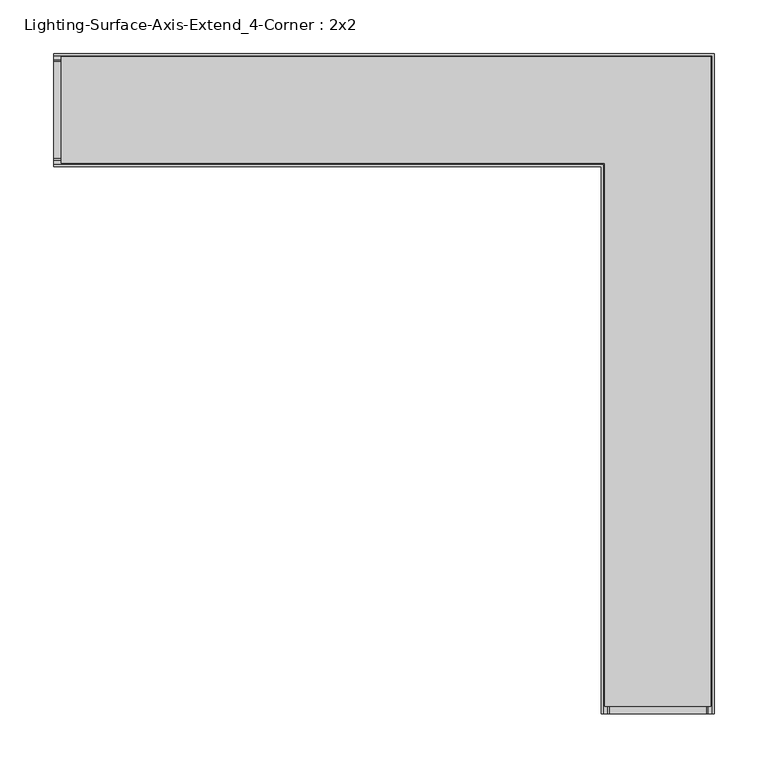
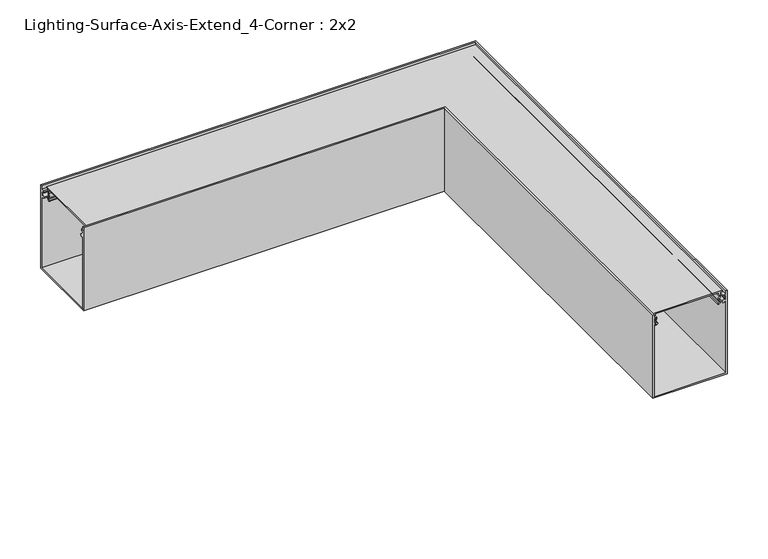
"""IFC4 building model written with IfcOpenShell, lengths in millimetres: light fixture geometry, Lighting-Surface-Axis-Extend_4-Corner : 2x2."""

from ifc_helpers import new_model, si_unit, frame, origin, place, context, project, spatial, polyline, circle_curve, ellipse_curve, source, transform, mapped, element, save
from ifc_brep_helpers import plane_surface, cylinder_surface, revolved_surface, advanced_brep


def lighting_surface_axis_extend_4_corner_2x2_baa705cf(model_context):
    return source(origin(), model_context, "Body", "AdvancedBrep", [
        advanced_brep(
        [(-556.81499, -44.9537362, 119.8879991), (-556.81499, -45.2924281, 113.4253737), (-556.81499, -46.1628914, 106.8194903), (-556.81499, -45.3476056, 105.3217575), (-556.81499, -43.9929166, 104.1223555), (-556.81499, -44.973818, 102.7943369), (-556.81499, -46.5470052, 104.1871908), (-556.81499, -47.8918907, 108.01776), (-556.81499, -46.2564041, 112.0569658), (-556.81499, -46.9204959, 113.9061789), (-556.81499, -46.607002, 119.8879991), (-556.81499, -49.61001, 119.8879991), (-556.81499, -49.61001, 121.793), (-556.81499, 49.61001, 121.793), (-556.81499, 49.61001, 119.8879991), (-556.81499, 46.607002, 119.8879991), (-556.81499, 46.9204959, 113.9061789), (-556.81499, 46.2564041, 112.0569658), (-556.81499, 47.8918907, 108.01776), (-556.81499, 46.5470052, 104.1871908), (-556.81499, 44.973818, 102.7943369), (-556.81499, 43.9929166, 104.1223555), (-556.81499, 45.3476056, 105.3217575), (-556.81499, 46.1628914, 106.8194903), (-556.81499, 45.2924281, 113.4253737), (-556.81499, 44.9537362, 119.8879991), (-44.9537362, -556.81499, 119.8879991), (44.9537362, -556.81499, 119.8879991), (45.2924281, -556.81499, 113.4253737), (46.1628914, -556.81499, 106.8194903), (45.3476056, -556.81499, 105.3217575), (43.9929166, -556.81499, 104.1223555), (44.973818, -556.81499, 102.7943369), (46.5470052, -556.81499, 104.1871908), (47.8918907, -556.81499, 108.01776), (46.2564041, -556.81499, 112.0569658), (46.9204959, -556.81499, 113.9061789), (46.607002, -556.81499, 119.8879991), (49.61001, -556.81499, 119.8879991), (49.61001, -556.81499, 121.793), (-49.61001, -556.81499, 121.793), (-49.61001, -556.81499, 119.8879991), (-46.607002, -556.81499, 119.8879991), (-46.9204959, -556.81499, 113.9061789), (-46.2564041, -556.81499, 112.0569658), (-47.8918907, -556.81499, 108.01776), (-46.5470052, -556.81499, 104.1871908), (-44.973818, -556.81499, 102.7943369), (-43.9929166, -556.81499, 104.1223555), (-45.3476056, -556.81499, 105.3217575), (-46.1628914, -556.81499, 106.8194903), (-45.2924281, -556.81499, 113.4253737), (-44.9537362, -44.9537362, 119.8879991), (-45.2924281, -45.2924281, 113.4253737), (-46.1628914, -46.1628914, 106.8194903), (-45.3476056, -45.3476056, 105.3217575), (-43.9929166, -43.9929166, 104.1223555), (-44.973818, -44.973818, 102.7943369), (-46.5470052, -46.5470052, 104.1871908), (-47.8918907, -47.8918907, 108.01776), (-46.2564041, -46.2564041, 112.0569658), (-46.9204959, -46.9204959, 113.9061789), (-46.607002, -46.607002, 119.8879991), (-49.61001, -49.61001, 119.8879991), (-49.61001, -49.61001, 121.793), (49.61001, 49.61001, 121.793), (44.9537362, 44.9537362, 119.8879991), (49.61001, 49.61001, 119.8879991), (46.607002, 46.607002, 119.8879991), (46.9204959, 46.9204959, 113.9061789), (46.2564041, 46.2564041, 112.0569658), (47.8918907, 47.8918907, 108.01776), (46.5470052, 46.5470052, 104.1871908), (44.973818, 44.973818, 102.7943369), (43.9929166, 43.9929166, 104.1223555), (45.3476056, 45.3476056, 105.3217575), (46.1628914, 46.1628914, 106.8194903), (45.2924281, 45.2924281, 113.4253737)],
        [
            (0, 1),
            (1, 2, circle_curve(frame((-556.81499, -48.03521, 110.4265), z_axis=(-1.0, 0.0, 0.0), x_axis=(0.0, 0.6748971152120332, 0.7379118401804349)), 4.064)),
            (2, 3, circle_curve(frame((-556.81499, -42.930354, 107.6083457), z_axis=(1.0, 0.0, 0.0), x_axis=(0.0, -0.9714904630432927, -0.23707863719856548)), 3.3274001)),
            (3, 4, circle_curve(frame((-556.81499, -37.9113277, 112.3560708), z_axis=(1.0, 0.0, 0.0), x_axis=(0.0, -0.7264901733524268, -0.68717685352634)), 10.2362001)),
            (4, 5, circle_curve(frame((-556.81499, -44.4833673, 103.4583462), z_axis=(-1.0, 0.0, 0.0), x_axis=(0.0, 0.5941256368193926, 0.8043722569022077)), 0.8255)),
            (5, 6, circle_curve(frame((-556.81499, -37.9113269, 112.3560717), z_axis=(-1.0, 0.0, 0.0), x_axis=(0.0, -0.594125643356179, -0.8043722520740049)), 11.8872013)),
            (6, 7, circle_curve(frame((-556.81499, -42.930354, 107.6083457), z_axis=(-1.0, 0.0, 0.0), x_axis=(0.0, -0.7264685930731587, -0.6871996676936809)), 4.9784001)),
            (7, 8, circle_curve(frame((-556.81499, -48.03521, 110.4265), z_axis=(1.0, 0.0, 0.0), x_axis=(0.0, 0.05939464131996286, -0.9982345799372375)), 2.413)),
            (8, 9, circle_curve(frame((-556.81499, -44.3839769, 113.7732456), z_axis=(-1.0, 0.0, 0.0), x_axis=(0.0, -0.7371760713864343, -0.675700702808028)), 2.54)),
            (9, 10),
            (10, 11),
            (11, 12),
            (12, 13),
            (13, 14),
            (14, 15),
            (15, 16),
            (16, 17, circle_curve(frame((-556.81499, 44.3839769, 113.7732456), z_axis=(-1.0, 0.0, 0.0), x_axis=(0.0, 0.7371760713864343, -0.675700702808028)), 2.54)),
            (17, 18, circle_curve(frame((-556.81499, 48.03521, 110.4265), z_axis=(1.0, 0.0, 0.0), x_axis=(0.0, -0.05939464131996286, -0.9982345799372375)), 2.413)),
            (18, 19, circle_curve(frame((-556.81499, 42.930354, 107.6083457), z_axis=(-1.0, 0.0, 0.0), x_axis=(0.0, 0.7264685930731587, -0.6871996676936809)), 4.9784001)),
            (19, 20, circle_curve(frame((-556.81499, 37.9113269, 112.3560717), z_axis=(-1.0, 0.0, 0.0), x_axis=(0.0, 0.594125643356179, -0.8043722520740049)), 11.8872013)),
            (20, 21, circle_curve(frame((-556.81499, 44.4833673, 103.4583462), z_axis=(-1.0, 0.0, 0.0), x_axis=(0.0, -0.5941256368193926, 0.8043722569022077)), 0.8255)),
            (21, 22, circle_curve(frame((-556.81499, 37.9113277, 112.3560708), z_axis=(1.0, 0.0, 0.0), x_axis=(0.0, 0.7264901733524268, -0.68717685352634)), 10.2362001)),
            (22, 23, circle_curve(frame((-556.81499, 42.930354, 107.6083457), z_axis=(1.0, 0.0, 0.0), x_axis=(0.0, 0.9714904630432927, -0.23707863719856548)), 3.3274001)),
            (23, 24, circle_curve(frame((-556.81499, 48.03521, 110.4265), z_axis=(-1.0, 0.0, 0.0), x_axis=(0.0, -0.6748971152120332, 0.7379118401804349)), 4.064)),
            (24, 25),
            (25, 0),
            (26, 27),
            (27, 28),
            (28, 29, circle_curve(frame((48.03521, -556.81499, 110.4265), z_axis=(0.0, -1.0, 0.0), x_axis=(-0.6748971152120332, 0.0, 0.7379118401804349)), 4.064)),
            (29, 30, circle_curve(frame((42.930354, -556.81499, 107.6083457), z_axis=(0.0, 1.0, 0.0), x_axis=(0.9714904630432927, 0.0, -0.23707863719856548)), 3.3274001)),
            (30, 31, circle_curve(frame((37.9113277, -556.81499, 112.3560708), z_axis=(0.0, 1.0, 0.0), x_axis=(0.7264901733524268, 0.0, -0.68717685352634)), 10.2362001)),
            (31, 32, circle_curve(frame((44.4833673, -556.81499, 103.4583462), z_axis=(0.0, -1.0, 0.0), x_axis=(-0.5941256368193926, 0.0, 0.8043722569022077)), 0.8255)),
            (32, 33, circle_curve(frame((37.9113269, -556.81499, 112.3560717), z_axis=(0.0, -1.0, 0.0), x_axis=(0.594125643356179, 0.0, -0.8043722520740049)), 11.8872013)),
            (33, 34, circle_curve(frame((42.930354, -556.81499, 107.6083457), z_axis=(0.0, -1.0, 0.0), x_axis=(0.7264685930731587, 0.0, -0.6871996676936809)), 4.9784001)),
            (34, 35, circle_curve(frame((48.03521, -556.81499, 110.4265), z_axis=(0.0, 1.0, 0.0), x_axis=(-0.05939464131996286, 0.0, -0.9982345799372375)), 2.413)),
            (35, 36, circle_curve(frame((44.3839769, -556.81499, 113.7732456), z_axis=(0.0, -1.0, 0.0), x_axis=(0.7371760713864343, 0.0, -0.675700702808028)), 2.54)),
            (36, 37),
            (37, 38),
            (38, 39),
            (39, 40),
            (40, 41),
            (41, 42),
            (42, 43),
            (43, 44, circle_curve(frame((-44.3839769, -556.81499, 113.7732456), z_axis=(0.0, -1.0, 0.0), x_axis=(-0.7371760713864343, 0.0, -0.675700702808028)), 2.54)),
            (44, 45, circle_curve(frame((-48.03521, -556.81499, 110.4265), z_axis=(0.0, 1.0, 0.0), x_axis=(0.05939464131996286, 0.0, -0.9982345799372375)), 2.413)),
            (45, 46, circle_curve(frame((-42.930354, -556.81499, 107.6083457), z_axis=(0.0, -1.0, 0.0), x_axis=(-0.7264685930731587, 0.0, -0.6871996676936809)), 4.9784001)),
            (46, 47, circle_curve(frame((-37.9113269, -556.81499, 112.3560717), z_axis=(0.0, -1.0, 0.0), x_axis=(-0.594125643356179, 0.0, -0.8043722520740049)), 11.8872013)),
            (47, 48, circle_curve(frame((-44.4833673, -556.81499, 103.4583462), z_axis=(0.0, -1.0, 0.0), x_axis=(0.5941256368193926, 0.0, 0.8043722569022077)), 0.8255)),
            (48, 49, circle_curve(frame((-37.9113277, -556.81499, 112.3560708), z_axis=(0.0, 1.0, 0.0), x_axis=(-0.7264901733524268, 0.0, -0.68717685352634)), 10.2362001)),
            (49, 50, circle_curve(frame((-42.930354, -556.81499, 107.6083457), z_axis=(0.0, 1.0, 0.0), x_axis=(-0.9714904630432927, 0.0, -0.23707863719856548)), 3.3274001)),
            (50, 51, circle_curve(frame((-48.03521, -556.81499, 110.4265), z_axis=(0.0, -1.0, 0.0), x_axis=(0.6748971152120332, 0.0, 0.7379118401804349)), 4.064)),
            (51, 26),
            (0, 52),
            (52, 53),
            (53, 1),
            (53, 54, ellipse_curve(frame((-48.03521, -48.03521, 110.4265), z_axis=(-0.7071067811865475, 0.7071067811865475, 0.0), x_axis=(-0.7071067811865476, -0.7071067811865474, 0.0)), 5.7473639, 4.064)),
            (54, 2),
            (54, 55, ellipse_curve(frame((-42.930354, -42.930354, 107.6083457), z_axis=(0.7071067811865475, -0.7071067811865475, 0.0), x_axis=(0.7071067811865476, 0.7071067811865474, 0.0)), 4.7056543, 3.3274001)),
            (55, 3),
            (55, 56, ellipse_curve(frame((-37.9113277, -37.9113277, 112.3560708), z_axis=(0.7071067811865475, -0.7071067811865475, 0.0), x_axis=(0.7071067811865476, 0.7071067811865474, 0.0)), 14.476173, 10.2362001)),
            (56, 4),
            (56, 57, ellipse_curve(frame((-44.4833673, -44.4833673, 103.4583462), z_axis=(-0.7071067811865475, 0.7071067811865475, 0.0), x_axis=(-0.7071067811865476, -0.7071067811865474, 0.0)), 1.1674333, 0.8255)),
            (57, 5),
            (57, 58, ellipse_curve(frame((-37.9113269, -37.9113269, 112.3560717), z_axis=(-0.7071067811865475, 0.7071067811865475, 0.0), x_axis=(-0.7071067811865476, -0.7071067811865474, 0.0)), 16.8110412, 11.8872013)),
            (58, 6),
            (58, 59, ellipse_curve(frame((-42.930354, -42.930354, 107.6083457), z_axis=(-0.7071067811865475, 0.7071067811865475, 0.0), x_axis=(-0.7071067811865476, -0.7071067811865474, 0.0)), 7.0405209, 4.9784001)),
            (59, 7),
            (59, 60, ellipse_curve(frame((-48.03521, -48.03521, 110.4265), z_axis=(0.7071067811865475, -0.7071067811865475, 0.0), x_axis=(0.7071067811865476, 0.7071067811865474, 0.0)), 3.4124973, 2.413)),
            (60, 8),
            (60, 61, ellipse_curve(frame((-44.3839769, -44.3839769, 113.7732456), z_axis=(-0.7071067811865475, 0.7071067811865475, 0.0), x_axis=(-0.7071067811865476, -0.7071067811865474, 0.0)), 3.5921024, 2.54)),
            (61, 9),
            (61, 62),
            (62, 10),
            (62, 42),
            (41, 63),
            (63, 11),
            (63, 64),
            (64, 12),
            (64, 40),
            (39, 65),
            (65, 13),
            (25, 66),
            (66, 27),
            (26, 52),
            (65, 67),
            (67, 14),
            (67, 38),
            (37, 68),
            (68, 15),
            (68, 69),
            (69, 16),
            (69, 70, ellipse_curve(frame((44.3839769, 44.3839769, 113.7732456), z_axis=(-0.7071067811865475, 0.7071067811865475, 0.0), x_axis=(-0.7071067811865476, -0.7071067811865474, 0.0)), 3.5921024, 2.54)),
            (70, 17),
            (70, 71, ellipse_curve(frame((48.03521, 48.03521, 110.4265), z_axis=(0.7071067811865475, -0.7071067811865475, 0.0), x_axis=(0.7071067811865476, 0.7071067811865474, 0.0)), 3.4124973, 2.413)),
            (71, 18),
            (71, 72, ellipse_curve(frame((42.930354, 42.930354, 107.6083457), z_axis=(-0.7071067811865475, 0.7071067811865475, 0.0), x_axis=(-0.7071067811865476, -0.7071067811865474, 0.0)), 7.0405209, 4.9784001)),
            (72, 19),
            (72, 73, ellipse_curve(frame((37.9113269, 37.9113269, 112.3560717), z_axis=(-0.7071067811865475, 0.7071067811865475, 0.0), x_axis=(-0.7071067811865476, -0.7071067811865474, 0.0)), 16.8110412, 11.8872013)),
            (73, 20),
            (73, 74, ellipse_curve(frame((44.4833673, 44.4833673, 103.4583462), z_axis=(-0.7071067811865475, 0.7071067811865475, 0.0), x_axis=(-0.7071067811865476, -0.7071067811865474, 0.0)), 1.1674333, 0.8255)),
            (74, 21),
            (74, 75, ellipse_curve(frame((37.9113277, 37.9113277, 112.3560708), z_axis=(0.7071067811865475, -0.7071067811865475, 0.0), x_axis=(0.7071067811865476, 0.7071067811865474, 0.0)), 14.476173, 10.2362001)),
            (75, 22),
            (75, 76, ellipse_curve(frame((42.930354, 42.930354, 107.6083457), z_axis=(0.7071067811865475, -0.7071067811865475, 0.0), x_axis=(0.7071067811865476, 0.7071067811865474, 0.0)), 4.7056543, 3.3274001)),
            (76, 23),
            (76, 77, ellipse_curve(frame((48.03521, 48.03521, 110.4265), z_axis=(-0.7071067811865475, 0.7071067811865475, 0.0), x_axis=(-0.7071067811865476, -0.7071067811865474, 0.0)), 5.7473639, 4.064)),
            (77, 24),
            (77, 66),
            (51, 53),
            (50, 54),
            (49, 55),
            (48, 56),
            (47, 57),
            (46, 58),
            (45, 59),
            (44, 60),
            (43, 61),
            (36, 69),
            (35, 70),
            (34, 71),
            (33, 72),
            (32, 73),
            (31, 74),
            (30, 75),
            (29, 76),
            (28, 77),
        ],
        [
            plane_surface(frame((-556.81499, 0.0, 0.0), z_axis=(-1.0, 0.0, 0.0), x_axis=(0.0, 0.0, 1.0))),
            plane_surface(frame((0.0, -556.81499, 0.0), z_axis=(0.0, -1.0, 0.0), x_axis=(0.0, 0.0, 1.0))),
            plane_surface(frame((-556.81499, -44.9537362, 119.8879991), z_axis=(0.0, 0.9986295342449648, -0.05233596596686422), x_axis=(1.0, 0.0, 0.0))),
            cylinder_surface(frame((-556.81499, -48.03521, 110.4265), z_axis=(-1.0, 0.0, 0.0), x_axis=(0.0, 0.6748971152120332, 0.7379118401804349)), 4.064),
            revolved_surface(polyline([(-39.6029539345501, -46.1628914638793, 106.81949021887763), (-556.81499, -46.1628914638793, 106.81949021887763)]), (-556.81499, -42.930354, 107.6083457), (1.0000000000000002, 0.0, 0.0)),
            revolved_surface(polyline([(-27.67512760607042, -45.34782648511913, 105.32199102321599), (-556.81499, -45.34782648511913, 105.32199102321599)]), (-556.81499, -37.9113277, 112.3560708), (1.0, 0.0, 0.0)),
            cylinder_surface(frame((-556.81499, -44.4833673, 103.4583462), z_axis=(-1.0, 0.0, 0.0), x_axis=(0.0, 0.5941256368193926, 0.8043722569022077)), 0.8255),
            cylinder_surface(frame((-556.81499, -37.9113269, 112.3560717), z_axis=(-1.0, 0.0, 0.0), x_axis=(0.0, -0.594125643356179, -0.8043722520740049)), 11.8872013),
            cylinder_surface(frame((-556.81499, -42.930354, 107.6083457), z_axis=(-1.0, 0.0, 0.0), x_axis=(0.0, -0.7264685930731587, -0.6871996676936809)), 4.9784001),
            revolved_surface(polyline([(-45.62221001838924, -47.89189073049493, 108.01775995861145), (-556.81499, -47.89189073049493, 108.01775995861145)]), (-556.81499, -48.03521, 110.4265), (1.0, 0.0, 0.0)),
            cylinder_surface(frame((-556.81499, -44.3839769, 113.7732456), z_axis=(-1.0, 0.0, 0.0), x_axis=(0.0, -0.7371760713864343, -0.675700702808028)), 2.54),
            plane_surface(frame((-556.81499, -46.9204959, 113.9061789), z_axis=(0.0, -0.9986295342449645, 0.05233596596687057), x_axis=(1.0, 0.0, 0.0))),
            plane_surface(frame((-556.81499, -46.607002, 119.8879991), z_axis=(0.0, 0.0, -1.0), x_axis=(1.0, 0.0, 0.0))),
            plane_surface(frame((-556.81499, -49.61001, 119.8879991), z_axis=(0.0, -1.0, 0.0), x_axis=(1.0, 0.0, 0.0))),
            plane_surface(frame((-556.81499, -49.61001, 121.793), z_axis=(0.0, 0.0, 1.0), x_axis=(1.0, 0.0, 0.0))),
            plane_surface(frame((-556.81499, 44.9537362, 119.8879991), z_axis=(0.0, 0.0, -1.0), x_axis=(1.0, 0.0, 0.0))),
            plane_surface(frame((-556.81499, 49.61001, 121.793), z_axis=(0.0, 1.0, 0.0), x_axis=(1.0, 0.0, 0.0))),
            plane_surface(frame((-556.81499, 49.61001, 119.8879991), z_axis=(0.0, 0.0, -1.0), x_axis=(1.0, 0.0, 0.0))),
            plane_surface(frame((-556.81499, 46.607002, 119.8879991), z_axis=(0.0, 0.9986295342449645, 0.05233596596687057), x_axis=(1.0, 0.0, 0.0))),
            cylinder_surface(frame((-556.81499, 44.3839769, 113.7732456), z_axis=(-1.0, 0.0, 0.0), x_axis=(0.0, 0.7371760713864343, -0.675700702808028)), 2.54),
            revolved_surface(polyline([(50.44820998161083, 47.89189073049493, 108.01775995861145), (-556.81499, 47.89189073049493, 108.01775995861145)]), (-556.81499, 48.03521, 110.4265), (1.0, 0.0, 0.0)),
            cylinder_surface(frame((-556.81499, 42.930354, 107.6083457), z_axis=(-1.0, 0.0, 0.0), x_axis=(0.0, 0.7264685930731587, -0.6871996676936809)), 4.9784001),
            cylinder_surface(frame((-556.81499, 37.9113269, 112.3560717), z_axis=(-1.0, 0.0, 0.0), x_axis=(0.0, 0.594125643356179, -0.8043722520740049)), 11.8872013),
            cylinder_surface(frame((-556.81499, 44.4833673, 103.4583462), z_axis=(-1.0, 0.0, 0.0), x_axis=(0.0, -0.5941256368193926, 0.8043722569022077)), 0.8255),
            revolved_surface(polyline([(48.14752779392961, 45.34782648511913, 105.32199102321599), (-556.81499, 45.34782648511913, 105.32199102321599)]), (-556.81499, 37.9113277, 112.3560708), (1.0, 0.0, 0.0)),
            revolved_surface(polyline([(46.25775406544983, 46.1628914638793, 106.81949021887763), (-556.81499, 46.1628914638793, 106.81949021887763)]), (-556.81499, 42.930354, 107.6083457), (1.0000000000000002, 0.0, 0.0)),
            cylinder_surface(frame((-556.81499, 48.03521, 110.4265), z_axis=(-1.0, 0.0, 0.0), x_axis=(0.0, -0.6748971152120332, 0.7379118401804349)), 4.064),
            plane_surface(frame((-556.81499, 45.2924281, 113.4253737), z_axis=(0.0, -0.9986295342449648, -0.05233596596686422), x_axis=(1.0, 0.0, 0.0))),
            plane_surface(frame((-44.9537362, -44.9537362, 119.8879991), z_axis=(0.9986295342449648, 0.0, -0.05233596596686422), x_axis=(0.0, -1.0, 0.0))),
            cylinder_surface(frame((-48.03521, 0.0, 110.4265), z_axis=(0.0, 1.0, 0.0), x_axis=(0.6748971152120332, 0.0, 0.7379118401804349)), 4.064),
            revolved_surface(polyline([(-46.1628914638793, -556.8149900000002, 106.81949021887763), (-46.1628914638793, -39.60295393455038, 106.81949021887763)]), (-42.930354, 0.0, 107.6083457), (0.0, -1.0000000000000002, 0.0)),
            revolved_surface(polyline([(-45.34782648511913, -556.81499, 105.32199102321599), (-45.34782648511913, -27.675127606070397, 105.32199102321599)]), (-37.9113277, 0.0, 112.3560708), (0.0, -1.0, 0.0)),
            cylinder_surface(frame((-44.4833673, 0.0, 103.4583462), z_axis=(0.0, 1.0, 0.0), x_axis=(0.5941256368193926, 0.0, 0.8043722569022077)), 0.8255),
            cylinder_surface(frame((-37.9113269, 0.0, 112.3560717), z_axis=(0.0, 1.0, 0.0), x_axis=(-0.594125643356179, 0.0, -0.8043722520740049)), 11.8872013),
            cylinder_surface(frame((-42.930354, 0.0, 107.6083457), z_axis=(0.0, 1.0, 0.0), x_axis=(-0.7264685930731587, 0.0, -0.6871996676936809)), 4.9784001),
            revolved_surface(polyline([(-47.89189073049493, -556.81499, 108.01775995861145), (-47.89189073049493, -45.62221001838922, 108.01775995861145)]), (-48.03521, 0.0, 110.4265), (0.0, -1.0, 0.0)),
            cylinder_surface(frame((-44.3839769, 0.0, 113.7732456), z_axis=(0.0, 1.0, 0.0), x_axis=(-0.7371760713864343, 0.0, -0.675700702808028)), 2.54),
            plane_surface(frame((-46.9204959, -46.9204959, 113.9061789), z_axis=(-0.9986295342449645, 0.0, 0.05233596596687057), x_axis=(0.0, -1.0, 0.0))),
            plane_surface(frame((-49.61001, -49.61001, 119.8879991), z_axis=(-1.0, 0.0, 0.0), x_axis=(0.0, -1.0, 0.0))),
            plane_surface(frame((49.61001, 49.61001, 121.793), z_axis=(1.0, 0.0, 0.0), x_axis=(0.0, -1.0, 0.0))),
            plane_surface(frame((46.607002, 46.607002, 119.8879991), z_axis=(0.9986295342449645, 0.0, 0.05233596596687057), x_axis=(0.0, -1.0, 0.0))),
            cylinder_surface(frame((44.3839769, 0.0, 113.7732456), z_axis=(0.0, 1.0, 0.0), x_axis=(0.7371760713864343, 0.0, -0.675700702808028)), 2.54),
            revolved_surface(polyline([(47.89189073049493, -556.81499, 108.01775995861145), (47.89189073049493, 50.44820998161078, 108.01775995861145)]), (48.03521, 0.0, 110.4265), (0.0, -1.0, 0.0)),
            cylinder_surface(frame((42.930354, 0.0, 107.6083457), z_axis=(0.0, 1.0, 0.0), x_axis=(0.7264685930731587, 0.0, -0.6871996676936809)), 4.9784001),
            cylinder_surface(frame((37.9113269, 0.0, 112.3560717), z_axis=(0.0, 1.0, 0.0), x_axis=(0.594125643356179, 0.0, -0.8043722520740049)), 11.8872013),
            cylinder_surface(frame((44.4833673, 0.0, 103.4583462), z_axis=(0.0, 1.0, 0.0), x_axis=(-0.5941256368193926, 0.0, 0.8043722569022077)), 0.8255),
            revolved_surface(polyline([(45.34782648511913, -556.81499, 105.32199102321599), (45.34782648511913, 48.147527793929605, 105.32199102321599)]), (37.9113277, 0.0, 112.3560708), (0.0, -1.0, 0.0)),
            revolved_surface(polyline([(46.1628914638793, -556.8149900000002, 106.81949021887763), (46.1628914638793, 46.25775406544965, 106.81949021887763)]), (42.930354, 0.0, 107.6083457), (0.0, -1.0000000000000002, 0.0)),
            cylinder_surface(frame((48.03521, 0.0, 110.4265), z_axis=(0.0, 1.0, 0.0), x_axis=(-0.6748971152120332, 0.0, 0.7379118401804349)), 4.064),
            plane_surface(frame((45.2924281, 45.2924281, 113.4253737), z_axis=(-0.9986295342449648, 0.0, -0.05233596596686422), x_axis=(0.0, -1.0, 0.0))),
        ],
        [
            (0, [[1, 2, 3, 4, 5, 6, 7, 8, 9, 10, 11, 12, 13, 14, 15, 16, 17, 18, 19, 20, 21, 22, 23, 24, 25, 26]]),
            (1, [[27, 28, 29, 30, 31, 32, 33, 34, 35, 36, 37, 38, 39, 40, 41, 42, 43, 44, 45, 46, 47, 48, 49, 50, 51, 52]]),
            (2, [[-1, 53, 54, 55]]),
            (3, [[-2, -55, 56, 57]]),
            (4, [[-3, -57, 58, 59]]),
            (5, [[-4, -59, 60, 61]]),
            (6, [[-5, -61, 62, 63]]),
            (7, [[-6, -63, 64, 65]]),
            (8, [[-7, -65, 66, 67]]),
            (9, [[-8, -67, 68, 69]]),
            (10, [[-9, -69, 70, 71]]),
            (11, [[-10, -71, 72, 73]]),
            (12, [[-11, -73, 74, -42, 75, 76]]),
            (13, [[-12, -76, 77, 78]]),
            (14, [[-13, -78, 79, -40, 80, 81]]),
            (15, [[-26, 82, 83, -27, 84, -53]]),
            (16, [[-14, -81, 85, 86]]),
            (17, [[-15, -86, 87, -38, 88, 89]]),
            (18, [[-16, -89, 90, 91]]),
            (19, [[-17, -91, 92, 93]]),
            (20, [[-18, -93, 94, 95]]),
            (21, [[-19, -95, 96, 97]]),
            (22, [[-20, -97, 98, 99]]),
            (23, [[-21, -99, 100, 101]]),
            (24, [[-22, -101, 102, 103]]),
            (25, [[-23, -103, 104, 105]]),
            (26, [[-24, -105, 106, 107]]),
            (27, [[-25, -107, 108, -82]]),
            (28, [[-54, -84, -52, 109]]),
            (29, [[-56, -109, -51, 110]]),
            (30, [[-58, -110, -50, 111]]),
            (31, [[-60, -111, -49, 112]]),
            (32, [[-62, -112, -48, 113]]),
            (33, [[-64, -113, -47, 114]]),
            (34, [[-66, -114, -46, 115]]),
            (35, [[-68, -115, -45, 116]]),
            (36, [[-70, -116, -44, 117]]),
            (37, [[-72, -117, -43, -74]]),
            (38, [[-77, -75, -41, -79]]),
            (39, [[-85, -80, -39, -87]]),
            (40, [[-90, -88, -37, 118]]),
            (41, [[-92, -118, -36, 119]]),
            (42, [[-94, -119, -35, 120]]),
            (43, [[-96, -120, -34, 121]]),
            (44, [[-98, -121, -33, 122]]),
            (45, [[-100, -122, -32, 123]]),
            (46, [[-102, -123, -31, 124]]),
            (47, [[-104, -124, -30, 125]]),
            (48, [[-106, -125, -29, 126]]),
            (49, [[-108, -126, -28, -83]]),
        ],
    ),
        advanced_brep(
        [(-563.76189, -50.75301, 109.8677), (-563.76189, -50.75301, 2.032), (-563.76189, 50.75301, 2.032), (-563.76189, 50.75301, 109.8677), (-563.76189, 48.9135897, 109.8677), (-563.76189, 46.6540646, 108.5631626), (-563.76189, 45.4706616, 110.8183682), (-563.76189, 48.84801, 113.6523), (-563.76189, 48.84801, 111.8997), (-563.76189, 50.75301, 111.8997), (-563.76189, 50.75301, 118.4275), (-563.76189, 48.84801, 118.4275), (-563.76189, 48.84801, 116.9035), (-563.76189, 47.19701, 116.9900252), (-563.76189, 47.19701, 119.6975), (-563.76189, 50.75301, 119.6975), (-563.76189, 50.75301, 124.7775), (-563.76189, 52.78501, 124.7775), (-563.76189, 52.78501, 0.0), (-563.76189, -52.78501, 0.0), (-563.76189, -52.78501, 124.7775), (-563.76189, -50.75301, 124.7775), (-563.76189, -50.75301, 119.6975), (-563.76189, -47.19701, 119.6975), (-563.76189, -47.19701, 116.9900252), (-563.76189, -48.84801, 116.9035), (-563.76189, -48.84801, 118.4275), (-563.76189, -50.75301, 118.4275), (-563.76189, -50.75301, 111.8997), (-563.76189, -48.84801, 111.8997), (-563.76189, -48.84801, 113.6523), (-563.76189, -45.4706616, 110.8183682), (-563.76189, -46.6540646, 108.5631626), (-563.76189, -48.9135897, 109.8677), (-50.75301, -563.76189, 109.8677), (-48.9135897, -563.76189, 109.8677), (-46.6540646, -563.76189, 108.5631626), (-45.4706616, -563.76189, 110.8183682), (-48.84801, -563.76189, 113.6523), (-48.84801, -563.76189, 111.8997), (-50.75301, -563.76189, 111.8997), (-50.75301, -563.76189, 118.4275), (-48.84801, -563.76189, 118.4275), (-48.84801, -563.76189, 116.9035), (-47.19701, -563.76189, 116.9900252), (-47.19701, -563.76189, 119.6975), (-50.75301, -563.76189, 119.6975), (-50.75301, -563.76189, 124.7775), (-52.78501, -563.76189, 124.7775), (-52.78501, -563.76189, 0.0), (52.78501, -563.76189, 0.0), (52.78501, -563.76189, 124.7775), (50.75301, -563.76189, 124.7775), (50.75301, -563.76189, 119.6975), (47.19701, -563.76189, 119.6975), (47.19701, -563.76189, 116.9900252), (48.84801, -563.76189, 116.9035), (48.84801, -563.76189, 118.4275), (50.75301, -563.76189, 118.4275), (50.75301, -563.76189, 111.8997), (48.84801, -563.76189, 111.8997), (48.84801, -563.76189, 113.6523), (45.4706616, -563.76189, 110.8183682), (46.6540646, -563.76189, 108.5631626), (48.9135897, -563.76189, 109.8677), (50.75301, -563.76189, 109.8677), (50.75301, -563.76189, 2.032), (-50.75301, -563.76189, 2.032), (-50.75301, -50.75301, 109.8677), (-50.75301, -50.75301, 2.032), (50.75301, 50.75301, 2.032), (52.78501, 52.78501, 0.0), (-52.78501, -52.78501, 0.0), (-52.78501, -52.78501, 124.7775), (-50.75301, -50.75301, 124.7775), (-50.75301, -50.75301, 119.6975), (-47.19701, -47.19701, 119.6975), (-47.19701, -47.19701, 116.9900252), (-48.84801, -48.84801, 116.9035), (-48.84801, -48.84801, 118.4275), (-50.75301, -50.75301, 118.4275), (-50.75301, -50.75301, 111.8997), (-48.84801, -48.84801, 111.8997), (-48.84801, -48.84801, 113.6523), (-45.4706616, -45.4706616, 110.8183682), (-46.6540646, -46.6540646, 108.5631626), (-48.9135897, -48.9135897, 109.8677), (50.75301, 50.75301, 109.8677), (48.9135897, 48.9135897, 109.8677), (46.6540646, 46.6540646, 108.5631626), (45.4706616, 45.4706616, 110.8183682), (48.84801, 48.84801, 113.6523), (48.84801, 48.84801, 111.8997), (50.75301, 50.75301, 111.8997), (50.75301, 50.75301, 118.4275), (48.84801, 48.84801, 118.4275), (48.84801, 48.84801, 116.9035), (47.19701, 47.19701, 116.9900252), (47.19701, 47.19701, 119.6975), (50.75301, 50.75301, 119.6975), (50.75301, 50.75301, 124.7775), (52.78501, 52.78501, 124.7775)],
        [
            (0, 1),
            (1, 2),
            (2, 3),
            (3, 4),
            (4, 5, circle_curve(frame((-563.76189, 47.4072397, 109.8677), z_axis=(-1.0, 0.0, 0.0), x_axis=(0.0, 1.0, 0.0)), 1.5063501)),
            (5, 6, circle_curve(frame((-563.76189, 47.8452221, 110.6263079), z_axis=(-1.0, 0.0, 0.0), x_axis=(0.0, -0.5000000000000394, -0.866025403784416)), 2.382315)),
            (6, 7),
            (7, 8),
            (8, 9),
            (9, 10),
            (10, 11),
            (11, 12),
            (12, 13),
            (13, 14),
            (14, 15),
            (15, 16),
            (16, 17),
            (17, 18),
            (18, 19),
            (19, 20),
            (20, 21),
            (21, 22),
            (22, 23),
            (23, 24),
            (24, 25),
            (25, 26),
            (26, 27),
            (27, 28),
            (28, 29),
            (29, 30),
            (30, 31),
            (31, 32, circle_curve(frame((-563.76189, -47.8452221, 110.6263079), z_axis=(-1.0, 0.0, 0.0), x_axis=(0.0, 0.5000000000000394, -0.866025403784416)), 2.382315)),
            (32, 33, circle_curve(frame((-563.76189, -47.4072397, 109.8677), z_axis=(-1.0, 0.0, 0.0), x_axis=(0.0, -1.0, 0.0)), 1.5063501)),
            (33, 0),
            (34, 35),
            (35, 36, circle_curve(frame((-47.4072397, -563.76189, 109.8677), z_axis=(0.0, -1.0, 0.0), x_axis=(-1.0, 0.0, 0.0)), 1.5063501)),
            (36, 37, circle_curve(frame((-47.8452221, -563.76189, 110.6263079), z_axis=(0.0, -1.0, 0.0), x_axis=(0.5000000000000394, 0.0, -0.866025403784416)), 2.382315)),
            (37, 38),
            (38, 39),
            (39, 40),
            (40, 41),
            (41, 42),
            (42, 43),
            (43, 44),
            (44, 45),
            (45, 46),
            (46, 47),
            (47, 48),
            (48, 49),
            (49, 50),
            (50, 51),
            (51, 52),
            (52, 53),
            (53, 54),
            (54, 55),
            (55, 56),
            (56, 57),
            (57, 58),
            (58, 59),
            (59, 60),
            (60, 61),
            (61, 62),
            (62, 63, circle_curve(frame((47.8452221, -563.76189, 110.6263079), z_axis=(0.0, -1.0, 0.0), x_axis=(-0.5000000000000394, 0.0, -0.866025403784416)), 2.382315)),
            (63, 64, circle_curve(frame((47.4072397, -563.76189, 109.8677), z_axis=(0.0, -1.0, 0.0), x_axis=(1.0, 0.0, 0.0)), 1.5063501)),
            (64, 65),
            (65, 66),
            (66, 67),
            (67, 34),
            (0, 68),
            (68, 69),
            (69, 1),
            (69, 67),
            (66, 70),
            (70, 2),
            (18, 71),
            (71, 50),
            (49, 72),
            (72, 19),
            (72, 73),
            (73, 20),
            (73, 48),
            (47, 74),
            (74, 21),
            (74, 75),
            (75, 22),
            (75, 46),
            (45, 76),
            (76, 23),
            (76, 77),
            (77, 24),
            (77, 78),
            (78, 25),
            (78, 79),
            (79, 26),
            (79, 42),
            (41, 80),
            (80, 27),
            (80, 81),
            (81, 28),
            (81, 40),
            (39, 82),
            (82, 29),
            (82, 83),
            (83, 30),
            (83, 84),
            (84, 31),
            (84, 85, ellipse_curve(frame((-47.8452221, -47.8452221, 110.6263079), z_axis=(-0.7071067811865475, 0.7071067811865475, 0.0), x_axis=(-0.7071067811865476, -0.7071067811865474, 0.0)), 3.3691022, 2.382315)),
            (85, 32),
            (85, 86, ellipse_curve(frame((-47.4072397, -47.4072397, 109.8677), z_axis=(-0.7071067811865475, 0.7071067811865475, 0.0), x_axis=(-0.7071067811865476, -0.7071067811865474, 0.0)), 2.1303007, 1.5063501)),
            (86, 33),
            (86, 35),
            (34, 68),
            (70, 87),
            (87, 3),
            (87, 65),
            (64, 88),
            (88, 4),
            (88, 89, ellipse_curve(frame((47.4072397, 47.4072397, 109.8677), z_axis=(-0.7071067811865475, 0.7071067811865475, 0.0), x_axis=(-0.7071067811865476, -0.7071067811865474, 0.0)), 2.1303007, 1.5063501)),
            (89, 5),
            (89, 90, ellipse_curve(frame((47.8452221, 47.8452221, 110.6263079), z_axis=(-0.7071067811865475, 0.7071067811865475, 0.0), x_axis=(-0.7071067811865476, -0.7071067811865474, 0.0)), 3.3691022, 2.382315)),
            (90, 6),
            (90, 91),
            (91, 7),
            (91, 92),
            (92, 8),
            (92, 60),
            (59, 93),
            (93, 9),
            (93, 94),
            (94, 10),
            (94, 58),
            (57, 95),
            (95, 11),
            (95, 96),
            (96, 12),
            (96, 97),
            (97, 13),
            (97, 98),
            (98, 14),
            (98, 54),
            (53, 99),
            (99, 15),
            (99, 100),
            (100, 16),
            (100, 52),
            (51, 101),
            (101, 17),
            (101, 71),
            (63, 89),
            (62, 90),
            (61, 91),
            (56, 96),
            (55, 97),
            (44, 77),
            (43, 78),
            (38, 83),
            (37, 84),
            (36, 85),
        ],
        [
            plane_surface(frame((-563.76189, 0.0, 0.0), z_axis=(-1.0, 0.0, 0.0), x_axis=(0.0, 0.0, 1.0))),
            plane_surface(frame((0.0, -563.76189, 0.0), z_axis=(0.0, -1.0, 0.0), x_axis=(0.0, 0.0, 1.0))),
            plane_surface(frame((-563.76189, -50.75301, 109.8677), z_axis=(0.0, 1.0, 0.0), x_axis=(1.0, 0.0, 0.0))),
            plane_surface(frame((-563.76189, -50.75301, 2.032), z_axis=(0.0, 0.0, 1.0), x_axis=(1.0, 0.0, 0.0))),
            plane_surface(frame((-563.76189, 52.78501, 0.0), z_axis=(0.0, 0.0, -1.0), x_axis=(1.0, 0.0, 0.0))),
            plane_surface(frame((-563.76189, -52.78501, 0.0), z_axis=(0.0, -1.0, 0.0), x_axis=(1.0, 0.0, 0.0))),
            plane_surface(frame((-563.76189, -52.78501, 124.7775), z_axis=(0.0, 0.0, 1.0), x_axis=(1.0, 0.0, 0.0))),
            plane_surface(frame((-563.76189, -50.75301, 124.7775), z_axis=(0.0, 1.0, 0.0), x_axis=(1.0, 0.0, 0.0))),
            plane_surface(frame((-563.76189, -50.75301, 119.6975), z_axis=(0.0, 0.0, 1.0), x_axis=(1.0, 0.0, 0.0))),
            plane_surface(frame((-563.76189, -47.19701, 119.6975), z_axis=(0.0, 1.0, 0.0), x_axis=(1.0, 0.0, 0.0))),
            plane_surface(frame((-563.76189, -47.19701, 116.9900252), z_axis=(0.0, 0.052335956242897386, -0.9986295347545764), x_axis=(1.0, 0.0, 0.0))),
            plane_surface(frame((-563.76189, -48.84801, 116.9035), z_axis=(0.0, -1.0, 0.0), x_axis=(1.0, 0.0, 0.0))),
            plane_surface(frame((-563.76189, -48.84801, 118.4275), z_axis=(0.0, 0.0, -1.0), x_axis=(1.0, 0.0, 0.0))),
            plane_surface(frame((-563.76189, -50.75301, 118.4275), z_axis=(0.0, 1.0, 0.0), x_axis=(1.0, 0.0, 0.0))),
            plane_surface(frame((-563.76189, -50.75301, 111.8997), z_axis=(0.0, 0.0, 1.0), x_axis=(1.0, 0.0, 0.0))),
            plane_surface(frame((-563.76189, -48.84801, 111.8997), z_axis=(0.0, -1.0, 0.0), x_axis=(1.0, 0.0, 0.0))),
            plane_surface(frame((-563.76189, -48.84801, 113.6523), z_axis=(0.0, 0.6427876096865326, 0.7660444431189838), x_axis=(1.0, 0.0, 0.0))),
            cylinder_surface(frame((-563.76189, -47.8452221, 110.6263079), z_axis=(-1.0, 0.0, 0.0), x_axis=(0.0, 0.5000000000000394, -0.866025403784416)), 2.382315),
            cylinder_surface(frame((-563.76189, -47.4072397, 109.8677), z_axis=(-1.0, 0.0, 0.0), x_axis=(0.0, -1.0, 0.0)), 1.5063501),
            plane_surface(frame((-563.76189, -48.9135897, 109.8677), z_axis=(0.0, 0.0, -1.0), x_axis=(1.0, 0.0, 0.0))),
            plane_surface(frame((-563.76189, 50.75301, 2.032), z_axis=(0.0, -1.0, 0.0), x_axis=(1.0, 0.0, 0.0))),
            plane_surface(frame((-563.76189, 50.75301, 109.8677), z_axis=(0.0, 0.0, -1.0), x_axis=(1.0, 0.0, 0.0))),
            cylinder_surface(frame((-563.76189, 47.4072397, 109.8677), z_axis=(-1.0, 0.0, 0.0), x_axis=(0.0, 1.0, 0.0)), 1.5063501),
            cylinder_surface(frame((-563.76189, 47.8452221, 110.6263079), z_axis=(-1.0, 0.0, 0.0), x_axis=(0.0, -0.5000000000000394, -0.866025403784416)), 2.382315),
            plane_surface(frame((-563.76189, 45.4706616, 110.8183682), z_axis=(0.0, -0.6427876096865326, 0.7660444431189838), x_axis=(1.0, 0.0, 0.0))),
            plane_surface(frame((-563.76189, 48.84801, 113.6523), z_axis=(0.0, 1.0, 0.0), x_axis=(1.0, 0.0, 0.0))),
            plane_surface(frame((-563.76189, 48.84801, 111.8997), z_axis=(0.0, 0.0, 1.0), x_axis=(1.0, 0.0, 0.0))),
            plane_surface(frame((-563.76189, 50.75301, 111.8997), z_axis=(0.0, -1.0, 0.0), x_axis=(1.0, 0.0, 0.0))),
            plane_surface(frame((-563.76189, 50.75301, 118.4275), z_axis=(0.0, 0.0, -1.0), x_axis=(1.0, 0.0, 0.0))),
            plane_surface(frame((-563.76189, 48.84801, 118.4275), z_axis=(0.0, 1.0, 0.0), x_axis=(1.0, 0.0, 0.0))),
            plane_surface(frame((-563.76189, 48.84801, 116.9035), z_axis=(0.0, -0.052335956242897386, -0.9986295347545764), x_axis=(1.0, 0.0, 0.0))),
            plane_surface(frame((-563.76189, 47.19701, 116.9900252), z_axis=(0.0, -1.0, 0.0), x_axis=(1.0, 0.0, 0.0))),
            plane_surface(frame((-563.76189, 47.19701, 119.6975), z_axis=(0.0, 0.0, 1.0), x_axis=(1.0, 0.0, 0.0))),
            plane_surface(frame((-563.76189, 50.75301, 119.6975), z_axis=(0.0, -1.0, 0.0), x_axis=(1.0, 0.0, 0.0))),
            plane_surface(frame((-563.76189, 50.75301, 124.7775), z_axis=(0.0, 0.0, 1.0), x_axis=(1.0, 0.0, 0.0))),
            plane_surface(frame((-563.76189, 52.78501, 124.7775), z_axis=(0.0, 1.0, 0.0), x_axis=(1.0, 0.0, 0.0))),
            plane_surface(frame((-50.75301, -50.75301, 109.8677), z_axis=(1.0, 0.0, 0.0), x_axis=(0.0, -1.0, 0.0))),
            plane_surface(frame((50.75301, 50.75301, 2.032), z_axis=(-1.0, 0.0, 0.0), x_axis=(0.0, -1.0, 0.0))),
            cylinder_surface(frame((47.4072397, 0.0, 109.8677), z_axis=(0.0, 1.0, 0.0), x_axis=(1.0, 0.0, 0.0)), 1.5063501),
            cylinder_surface(frame((47.8452221, 0.0, 110.6263079), z_axis=(0.0, 1.0, 0.0), x_axis=(-0.5000000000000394, 0.0, -0.866025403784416)), 2.382315),
            plane_surface(frame((45.4706616, 45.4706616, 110.8183682), z_axis=(-0.6427876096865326, 0.0, 0.7660444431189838), x_axis=(0.0, -1.0, 0.0))),
            plane_surface(frame((48.84801, 48.84801, 113.6523), z_axis=(1.0, 0.0, 0.0), x_axis=(0.0, -1.0, 0.0))),
            plane_surface(frame((50.75301, 50.75301, 111.8997), z_axis=(-1.0, 0.0, 0.0), x_axis=(0.0, -1.0, 0.0))),
            plane_surface(frame((48.84801, 48.84801, 118.4275), z_axis=(1.0, 0.0, 0.0), x_axis=(0.0, -1.0, 0.0))),
            plane_surface(frame((48.84801, 48.84801, 116.9035), z_axis=(-0.052335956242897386, 0.0, -0.9986295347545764), x_axis=(0.0, -1.0, 0.0))),
            plane_surface(frame((47.19701, 47.19701, 116.9900252), z_axis=(-1.0, 0.0, 0.0), x_axis=(0.0, -1.0, 0.0))),
            plane_surface(frame((50.75301, 50.75301, 119.6975), z_axis=(-1.0, 0.0, 0.0), x_axis=(0.0, -1.0, 0.0))),
            plane_surface(frame((52.78501, 52.78501, 124.7775), z_axis=(1.0, 0.0, 0.0), x_axis=(0.0, -1.0, 0.0))),
            plane_surface(frame((-52.78501, -52.78501, 0.0), z_axis=(-1.0, 0.0, 0.0), x_axis=(0.0, -1.0, 0.0))),
            plane_surface(frame((-50.75301, -50.75301, 124.7775), z_axis=(1.0, 0.0, 0.0), x_axis=(0.0, -1.0, 0.0))),
            plane_surface(frame((-47.19701, -47.19701, 119.6975), z_axis=(1.0, 0.0, 0.0), x_axis=(0.0, -1.0, 0.0))),
            plane_surface(frame((-47.19701, -47.19701, 116.9900252), z_axis=(0.052335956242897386, 0.0, -0.9986295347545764), x_axis=(0.0, -1.0, 0.0))),
            plane_surface(frame((-48.84801, -48.84801, 116.9035), z_axis=(-1.0, 0.0, 0.0), x_axis=(0.0, -1.0, 0.0))),
            plane_surface(frame((-50.75301, -50.75301, 118.4275), z_axis=(1.0, 0.0, 0.0), x_axis=(0.0, -1.0, 0.0))),
            plane_surface(frame((-48.84801, -48.84801, 111.8997), z_axis=(-1.0, 0.0, 0.0), x_axis=(0.0, -1.0, 0.0))),
            plane_surface(frame((-48.84801, -48.84801, 113.6523), z_axis=(0.6427876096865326, 0.0, 0.7660444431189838), x_axis=(0.0, -1.0, 0.0))),
            cylinder_surface(frame((-47.8452221, 0.0, 110.6263079), z_axis=(0.0, 1.0, 0.0), x_axis=(0.5000000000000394, 0.0, -0.866025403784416)), 2.382315),
            cylinder_surface(frame((-47.4072397, 0.0, 109.8677), z_axis=(0.0, 1.0, 0.0), x_axis=(-1.0, 0.0, 0.0)), 1.5063501),
        ],
        [
            (0, [[1, 2, 3, 4, 5, 6, 7, 8, 9, 10, 11, 12, 13, 14, 15, 16, 17, 18, 19, 20, 21, 22, 23, 24, 25, 26, 27, 28, 29, 30, 31, 32, 33, 34]]),
            (1, [[35, 36, 37, 38, 39, 40, 41, 42, 43, 44, 45, 46, 47, 48, 49, 50, 51, 52, 53, 54, 55, 56, 57, 58, 59, 60, 61, 62, 63, 64, 65, 66, 67, 68]]),
            (2, [[-1, 69, 70, 71]]),
            (3, [[-2, -71, 72, -67, 73, 74]]),
            (4, [[-19, 75, 76, -50, 77, 78]]),
            (5, [[-20, -78, 79, 80]]),
            (6, [[-21, -80, 81, -48, 82, 83]]),
            (7, [[-22, -83, 84, 85]]),
            (8, [[-23, -85, 86, -46, 87, 88]]),
            (9, [[-24, -88, 89, 90]]),
            (10, [[-25, -90, 91, 92]]),
            (11, [[-26, -92, 93, 94]]),
            (12, [[-27, -94, 95, -42, 96, 97]]),
            (13, [[-28, -97, 98, 99]]),
            (14, [[-29, -99, 100, -40, 101, 102]]),
            (15, [[-30, -102, 103, 104]]),
            (16, [[-31, -104, 105, 106]]),
            (17, [[-32, -106, 107, 108]]),
            (18, [[-33, -108, 109, 110]]),
            (19, [[-34, -110, 111, -35, 112, -69]]),
            (20, [[-3, -74, 113, 114]]),
            (21, [[-4, -114, 115, -65, 116, 117]]),
            (22, [[-5, -117, 118, 119]]),
            (23, [[-6, -119, 120, 121]]),
            (24, [[-7, -121, 122, 123]]),
            (25, [[-8, -123, 124, 125]]),
            (26, [[-9, -125, 126, -60, 127, 128]]),
            (27, [[-10, -128, 129, 130]]),
            (28, [[-11, -130, 131, -58, 132, 133]]),
            (29, [[-12, -133, 134, 135]]),
            (30, [[-13, -135, 136, 137]]),
            (31, [[-14, -137, 138, 139]]),
            (32, [[-15, -139, 140, -54, 141, 142]]),
            (33, [[-16, -142, 143, 144]]),
            (34, [[-17, -144, 145, -52, 146, 147]]),
            (35, [[-18, -147, 148, -75]]),
            (36, [[-70, -112, -68, -72]]),
            (37, [[-113, -73, -66, -115]]),
            (38, [[-118, -116, -64, 149]]),
            (39, [[-120, -149, -63, 150]]),
            (40, [[-122, -150, -62, 151]]),
            (41, [[-124, -151, -61, -126]]),
            (42, [[-129, -127, -59, -131]]),
            (43, [[-134, -132, -57, 152]]),
            (44, [[-136, -152, -56, 153]]),
            (45, [[-138, -153, -55, -140]]),
            (46, [[-143, -141, -53, -145]]),
            (47, [[-148, -146, -51, -76]]),
            (48, [[-79, -77, -49, -81]]),
            (49, [[-84, -82, -47, -86]]),
            (50, [[-89, -87, -45, 154]]),
            (51, [[-91, -154, -44, 155]]),
            (52, [[-93, -155, -43, -95]]),
            (53, [[-98, -96, -41, -100]]),
            (54, [[-103, -101, -39, 156]]),
            (55, [[-105, -156, -38, 157]]),
            (56, [[-107, -157, -37, 158]]),
            (57, [[-109, -158, -36, -111]]),
        ],
    ),
    ])


if __name__ == "__main__":
    model = new_model("IFC4")
    model_context = context("Model", 3, world=origin())
    ifc_project = project(units=[si_unit("LENGTHUNIT", "METRE", prefix="MILLI")], contexts=[model_context])
    site = spatial("IfcSite", under=ifc_project)
    building = spatial("IfcBuilding", under=site)
    placement = place(None, origin())
    lighting_surface_axis_extend_4_corner_2x2_shape = lighting_surface_axis_extend_4_corner_2x2_baa705cf(model_context)
    element("IfcLightFixture", 1, ObjectType="Lighting-Surface-Axis-Extend_4-Corner : 2x2", at=placement, inside=building, context=model_context, shape_type="MappedRepresentation", body=[
        mapped(lighting_surface_axis_extend_4_corner_2x2_shape, transform((0.0, 0.0, 0.0), x_axis=(1.0, 0.0, 0.0), y_axis=(0.0, 1.0, 0.0), z_axis=(0.0, 0.0, 1.0))),
    ])
    save(model, "model.ifc")
